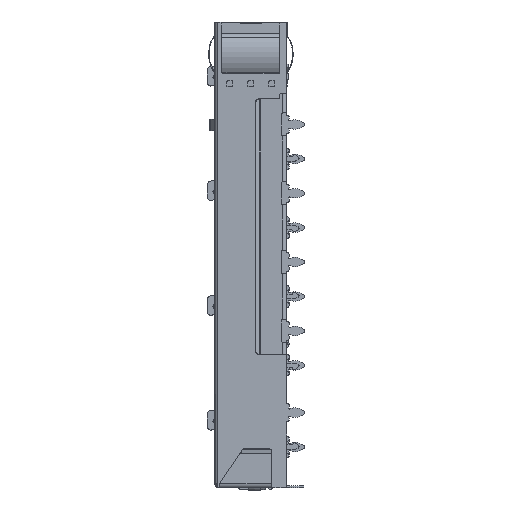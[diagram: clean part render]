
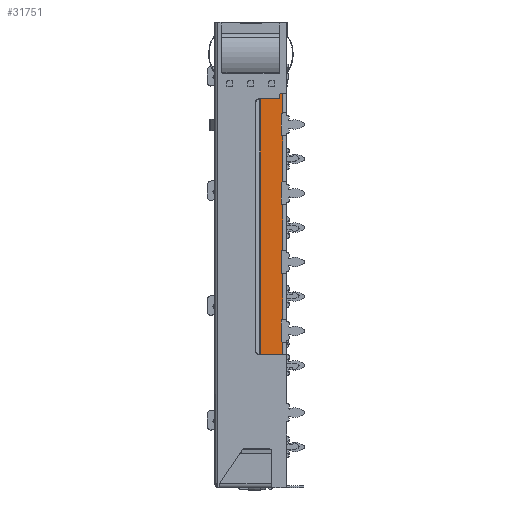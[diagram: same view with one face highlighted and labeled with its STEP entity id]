
A CAD part, left-side view. The second image highlights one B-rep face of the part: STEP entity #31751.
In plain terms, the highlighted planar face has unit normal (-1, 0, 0).
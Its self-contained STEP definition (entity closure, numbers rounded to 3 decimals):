
#18884=PLANE('',#67309);
#24388=LINE('',#96723,#28931);
#24391=LINE('',#96733,#28934);
#24395=LINE('',#96749,#28938);
#24399=LINE('',#96765,#28942);
#24403=LINE('',#96781,#28946);
#24419=LINE('',#96826,#28962);
#24421=LINE('',#96834,#28964);
#24425=LINE('',#96843,#28968);
#24429=LINE('',#96852,#28972);
#24433=LINE('',#96861,#28976);
#24439=LINE('',#96879,#28982);
#24443=LINE('',#96886,#28986);
#24447=LINE('',#96901,#28990);
#24448=LINE('',#96911,#28991);
#28931=VECTOR('',#79815,1.);
#28934=VECTOR('',#79828,1.);
#28938=VECTOR('',#79848,1.);
#28942=VECTOR('',#79868,1.);
#28946=VECTOR('',#79888,1.);
#28962=VECTOR('',#79934,1.);
#28964=VECTOR('',#79944,1.);
#28968=VECTOR('',#79950,1.);
#28972=VECTOR('',#79956,1.);
#28976=VECTOR('',#79962,1.);
#28982=VECTOR('',#79976,1.);
#28986=VECTOR('',#79982,1.);
#28990=VECTOR('',#80008,1.);
#28991=VECTOR('',#80027,1.);
#31751=ADVANCED_FACE('',(#34279),#18884,.F.);
#34279=FACE_OUTER_BOUND('',#36896,.T.);
#36896=EDGE_LOOP('',(#48931,#48932,#48933,#48934,#48935,#48936,#48937,#48938,
#48939,#48940,#48941,#48942,#48943,#48944,#48945,#48946,#48947,#48948,#48949,
#48950,#48951,#48952,#48953));
#48931=ORIENTED_EDGE('',*,*,#61027,.F.);
#48932=ORIENTED_EDGE('',*,*,#60990,.F.);
#48933=ORIENTED_EDGE('',*,*,#61028,.F.);
#48934=ORIENTED_EDGE('',*,*,#60935,.F.);
#48935=ORIENTED_EDGE('',*,*,#61029,.F.);
#48936=ORIENTED_EDGE('',*,*,#60994,.F.);
#48937=ORIENTED_EDGE('',*,*,#61030,.F.);
#48938=ORIENTED_EDGE('',*,*,#60964,.F.);
#48939=ORIENTED_EDGE('',*,*,#61031,.F.);
#48940=ORIENTED_EDGE('',*,*,#60998,.F.);
#48941=ORIENTED_EDGE('',*,*,#61032,.F.);
#48942=ORIENTED_EDGE('',*,*,#60956,.F.);
#48943=ORIENTED_EDGE('',*,*,#61033,.F.);
#48944=ORIENTED_EDGE('',*,*,#61002,.F.);
#48945=ORIENTED_EDGE('',*,*,#61034,.F.);
#48946=ORIENTED_EDGE('',*,*,#60948,.F.);
#48947=ORIENTED_EDGE('',*,*,#61035,.T.);
#48948=ORIENTED_EDGE('',*,*,#61008,.T.);
#48949=ORIENTED_EDGE('',*,*,#61010,.F.);
#48950=ORIENTED_EDGE('',*,*,#61014,.F.);
#48951=ORIENTED_EDGE('',*,*,#60986,.T.);
#48952=ORIENTED_EDGE('',*,*,#61026,.T.);
#48953=ORIENTED_EDGE('',*,*,#60940,.F.);
#54481=VERTEX_POINT('',#96706);
#54483=VERTEX_POINT('',#96712);
#54484=VERTEX_POINT('',#96716);
#54486=VERTEX_POINT('',#96726);
#54489=VERTEX_POINT('',#96738);
#54490=VERTEX_POINT('',#96742);
#54493=VERTEX_POINT('',#96754);
#54494=VERTEX_POINT('',#96758);
#54497=VERTEX_POINT('',#96770);
#54498=VERTEX_POINT('',#96774);
#54512=VERTEX_POINT('',#96819);
#54514=VERTEX_POINT('',#96827);
#54516=VERTEX_POINT('',#96835);
#54517=VERTEX_POINT('',#96836);
#54520=VERTEX_POINT('',#96844);
#54521=VERTEX_POINT('',#96845);
#54524=VERTEX_POINT('',#96853);
#54525=VERTEX_POINT('',#96854);
#54528=VERTEX_POINT('',#96862);
#54529=VERTEX_POINT('',#96863);
#54534=VERTEX_POINT('',#96874);
#54535=VERTEX_POINT('',#96876);
#54536=VERTEX_POINT('',#96880);
#60935=EDGE_CURVE('',#54484,#54483,#24388,.T.);
#60940=EDGE_CURVE('',#54486,#54481,#24391,.T.);
#60948=EDGE_CURVE('',#54490,#54489,#24395,.T.);
#60956=EDGE_CURVE('',#54494,#54493,#24399,.T.);
#60964=EDGE_CURVE('',#54498,#54497,#24403,.T.);
#60986=EDGE_CURVE('',#54512,#54514,#24419,.T.);
#60990=EDGE_CURVE('',#54516,#54517,#24421,.T.);
#60994=EDGE_CURVE('',#54520,#54521,#24425,.T.);
#60998=EDGE_CURVE('',#54524,#54525,#24429,.T.);
#61002=EDGE_CURVE('',#54528,#54529,#24433,.T.);
#61008=EDGE_CURVE('',#54535,#54534,#63148,.T.);
#61010=EDGE_CURVE('',#54536,#54534,#24439,.T.);
#61014=EDGE_CURVE('',#54512,#54536,#24443,.T.);
#61026=EDGE_CURVE('',#54514,#54481,#24447,.T.);
#61027=EDGE_CURVE('',#54517,#54486,#63157,.T.);
#61028=EDGE_CURVE('',#54483,#54516,#63158,.T.);
#61029=EDGE_CURVE('',#54521,#54484,#63159,.T.);
#61030=EDGE_CURVE('',#54497,#54520,#63160,.T.);
#61031=EDGE_CURVE('',#54525,#54498,#63161,.T.);
#61032=EDGE_CURVE('',#54493,#54524,#63162,.T.);
#61033=EDGE_CURVE('',#54529,#54494,#63163,.T.);
#61034=EDGE_CURVE('',#54489,#54528,#63164,.T.);
#61035=EDGE_CURVE('',#54490,#54535,#24448,.T.);
#63148=CIRCLE('',#67286,0.2);
#63157=CIRCLE('',#67301,0.2);
#63158=CIRCLE('',#67302,0.2);
#63159=CIRCLE('',#67303,0.2);
#63160=CIRCLE('',#67304,0.2);
#63161=CIRCLE('',#67305,0.2);
#63162=CIRCLE('',#67306,0.2);
#63163=CIRCLE('',#67307,0.2);
#63164=CIRCLE('',#67308,0.2);
#67286=AXIS2_PLACEMENT_3D('',#96875,#79971,#79972);
#67301=AXIS2_PLACEMENT_3D('',#96903,#80011,#80012);
#67302=AXIS2_PLACEMENT_3D('',#96904,#80013,#80014);
#67303=AXIS2_PLACEMENT_3D('',#96905,#80015,#80016);
#67304=AXIS2_PLACEMENT_3D('',#96906,#80017,#80018);
#67305=AXIS2_PLACEMENT_3D('',#96907,#80019,#80020);
#67306=AXIS2_PLACEMENT_3D('',#96908,#80021,#80022);
#67307=AXIS2_PLACEMENT_3D('',#96909,#80023,#80024);
#67308=AXIS2_PLACEMENT_3D('',#96910,#80025,#80026);
#67309=AXIS2_PLACEMENT_3D('',#96912,#80028,#80029);
#79815=DIRECTION('',(0.,0.,-1.));
#79828=DIRECTION('',(0.,0.,-1.));
#79848=DIRECTION('',(0.,0.,-1.));
#79868=DIRECTION('',(0.,0.,-1.));
#79888=DIRECTION('',(0.,0.,-1.));
#79934=DIRECTION('',(0.,0.,-1.));
#79944=DIRECTION('',(0.,0.,-1.));
#79950=DIRECTION('',(0.,0.,-1.));
#79956=DIRECTION('',(0.,0.,-1.));
#79962=DIRECTION('',(0.,0.,-1.));
#79971=DIRECTION('',(-1.,0.,0.));
#79972=DIRECTION('',(0.,1.,0.));
#79976=DIRECTION('',(0.,0.,1.));
#79982=DIRECTION('',(0.,-1.,0.));
#80008=DIRECTION('',(0.,-1.,0.));
#80011=DIRECTION('',(-1.,0.,0.));
#80012=DIRECTION('',(0.,0.,-1.));
#80013=DIRECTION('',(-1.,0.,0.));
#80014=DIRECTION('',(0.,0.,-1.));
#80015=DIRECTION('',(-1.,0.,0.));
#80016=DIRECTION('',(0.,0.,-1.));
#80017=DIRECTION('',(-1.,0.,0.));
#80018=DIRECTION('',(0.,0.,-1.));
#80019=DIRECTION('',(-1.,0.,0.));
#80020=DIRECTION('',(0.,0.,-1.));
#80021=DIRECTION('',(-1.,0.,0.));
#80022=DIRECTION('',(0.,0.,-1.));
#80023=DIRECTION('',(-1.,0.,0.));
#80024=DIRECTION('',(0.,0.,-1.));
#80025=DIRECTION('',(-1.,0.,0.));
#80026=DIRECTION('',(0.,0.,-1.));
#80027=DIRECTION('',(0.,1.,0.));
#80028=DIRECTION('',(1.,0.,0.));
#80029=DIRECTION('',(0.,-1.,0.));
#96706=CARTESIAN_POINT('',(-19.41,-8.9,4.49));
#96712=CARTESIAN_POINT('',(-19.41,-8.9,9.1));
#96716=CARTESIAN_POINT('',(-19.41,-8.9,15.1));
#96723=CARTESIAN_POINT('',(-19.41,-8.9,4.49));
#96726=CARTESIAN_POINT('',(-19.41,-8.9,6.1));
#96733=CARTESIAN_POINT('',(-19.41,-8.9,4.49));
#96738=CARTESIAN_POINT('',(-19.41,-8.9,36.1));
#96742=CARTESIAN_POINT('',(-19.41,-8.9,38.6));
#96749=CARTESIAN_POINT('',(-19.41,-8.9,4.49));
#96754=CARTESIAN_POINT('',(-19.41,-8.9,27.1));
#96758=CARTESIAN_POINT('',(-19.41,-8.9,33.1));
#96765=CARTESIAN_POINT('',(-19.41,-8.9,4.49));
#96770=CARTESIAN_POINT('',(-19.41,-8.9,18.1));
#96774=CARTESIAN_POINT('',(-19.41,-8.9,24.1));
#96781=CARTESIAN_POINT('',(-19.41,-8.9,4.49));
#96819=CARTESIAN_POINT('',(-19.41,-5.899,37.95));
#96826=CARTESIAN_POINT('',(-19.41,-5.899,48.));
#96827=CARTESIAN_POINT('',(-19.41,-5.899,4.49));
#96834=CARTESIAN_POINT('',(-19.41,-8.7,8.9));
#96835=CARTESIAN_POINT('',(-19.41,-8.7,8.9));
#96836=CARTESIAN_POINT('',(-19.41,-8.7,6.3));
#96843=CARTESIAN_POINT('',(-19.41,-8.7,17.9));
#96844=CARTESIAN_POINT('',(-19.41,-8.7,17.9));
#96845=CARTESIAN_POINT('',(-19.41,-8.7,15.3));
#96852=CARTESIAN_POINT('',(-19.41,-8.7,26.9));
#96853=CARTESIAN_POINT('',(-19.41,-8.7,26.9));
#96854=CARTESIAN_POINT('',(-19.41,-8.7,24.3));
#96861=CARTESIAN_POINT('',(-19.41,-8.7,35.9));
#96862=CARTESIAN_POINT('',(-19.41,-8.7,35.9));
#96863=CARTESIAN_POINT('',(-19.41,-8.7,33.3));
#96874=CARTESIAN_POINT('',(-19.41,-8.4,38.4));
#96875=CARTESIAN_POINT('',(-19.41,-8.6,38.4));
#96876=CARTESIAN_POINT('',(-19.41,-8.6,38.6));
#96879=CARTESIAN_POINT('',(-19.41,-8.4,36.25));
#96880=CARTESIAN_POINT('',(-19.41,-8.4,37.95));
#96886=CARTESIAN_POINT('',(-19.41,-5.3,37.95));
#96901=CARTESIAN_POINT('',(-19.41,-9.4,4.49));
#96903=CARTESIAN_POINT('',(-19.41,-8.9,6.3));
#96904=CARTESIAN_POINT('',(-19.41,-8.9,8.9));
#96905=CARTESIAN_POINT('',(-19.41,-8.9,15.3));
#96906=CARTESIAN_POINT('',(-19.41,-8.9,17.9));
#96907=CARTESIAN_POINT('',(-19.41,-8.9,24.3));
#96908=CARTESIAN_POINT('',(-19.41,-8.9,26.9));
#96909=CARTESIAN_POINT('',(-19.41,-8.9,33.3));
#96910=CARTESIAN_POINT('',(-19.41,-8.9,35.9));
#96911=CARTESIAN_POINT('',(-19.41,-9.4,38.6));
#96912=CARTESIAN_POINT('',(-19.41,-9.4,48.));
